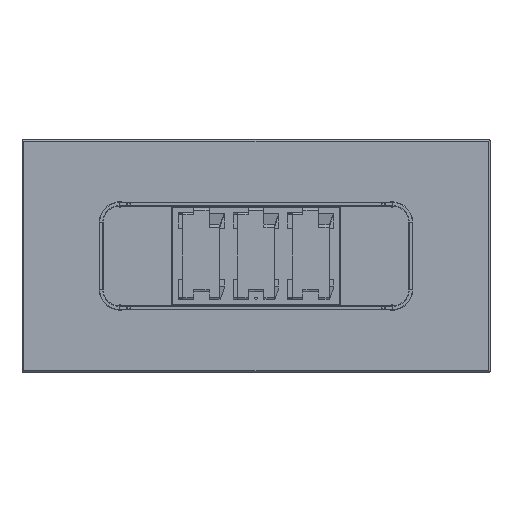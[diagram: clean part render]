
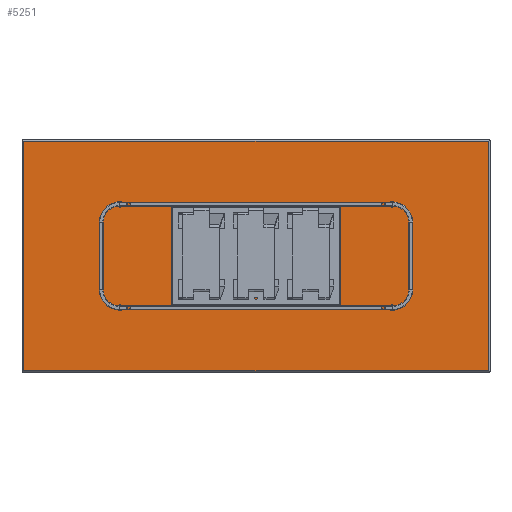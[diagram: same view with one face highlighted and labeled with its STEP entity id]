
A CAD part, front view. The second image highlights one B-rep face of the part: STEP entity #5251.
In plain terms, the highlighted planar face has unit normal (0, -1, 0).
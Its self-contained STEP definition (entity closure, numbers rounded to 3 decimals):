
#684 = ORIENTED_EDGE ( 'NONE', *, *, #3116, .T. ) ;
#761 = PLANE ( 'NONE',  #16390 ) ;
#1169 = ORIENTED_EDGE ( 'NONE', *, *, #15291, .T. ) ;
#1559 = CARTESIAN_POINT ( 'NONE',  ( 1187., 0., 0. ) ) ;
#2018 = DIRECTION ( 'NONE',  ( -1., 0., 0. ) ) ;
#2206 = CARTESIAN_POINT ( 'NONE',  ( -1187., 0., -587. ) ) ;
#2207 = LINE ( 'NONE', #7707, #9420 ) ;
#2434 = DIRECTION ( 'NONE',  ( 0., 0., -1. ) ) ;
#2562 = EDGE_CURVE ( 'NONE', #8899, #6400, #6342, .T. ) ;
#2597 = ORIENTED_EDGE ( 'NONE', *, *, #12336, .T. ) ;
#2868 = VERTEX_POINT ( 'NONE', #16897 ) ;
#3116 = EDGE_CURVE ( 'NONE', #2868, #8899, #5309, .T. ) ;
#3558 = FACE_OUTER_BOUND ( 'NONE', #8567, .T. ) ;
#3638 = VECTOR ( 'NONE', #2434, 1000. ) ;
#4472 = VECTOR ( 'NONE', #16006, 1000. ) ;
#4706 = VECTOR ( 'NONE', #9857, 1000. ) ;
#5152 = ORIENTED_EDGE ( 'NONE', *, *, #2562, .T. ) ;
#5251 = ADVANCED_FACE ( 'NONE', ( #3558 ), #761, .F. ) ;
#5309 = LINE ( 'NONE', #14801, #3638 ) ;
#6234 = LINE ( 'NONE', #1559, #4706 ) ;
#6282 = DIRECTION ( 'NONE',  ( 0., 1., 0. ) ) ;
#6342 = LINE ( 'NONE', #11849, #4472 ) ;
#6400 = VERTEX_POINT ( 'NONE', #11337 ) ;
#7029 = VERTEX_POINT ( 'NONE', #7186 ) ;
#7186 = CARTESIAN_POINT ( 'NONE',  ( 1187., 0., 587. ) ) ;
#7619 = CARTESIAN_POINT ( 'NONE',  ( 0., 0., 0. ) ) ;
#7707 = CARTESIAN_POINT ( 'NONE',  ( 0., 0., 587. ) ) ;
#8567 = EDGE_LOOP ( 'NONE', ( #2597, #1169, #684, #5152 ) ) ;
#8899 = VERTEX_POINT ( 'NONE', #2206 ) ;
#9420 = VECTOR ( 'NONE', #2018, 1000. ) ;
#9857 = DIRECTION ( 'NONE',  ( 0., 0., 1. ) ) ;
#11337 = CARTESIAN_POINT ( 'NONE',  ( 1187., 0., -587. ) ) ;
#11785 = DIRECTION ( 'NONE',  ( 0., 0., 1. ) ) ;
#11849 = CARTESIAN_POINT ( 'NONE',  ( 0., 0., -587. ) ) ;
#12336 = EDGE_CURVE ( 'NONE', #6400, #7029, #6234, .T. ) ;
#14801 = CARTESIAN_POINT ( 'NONE',  ( -1187., 0., 0. ) ) ;
#15291 = EDGE_CURVE ( 'NONE', #7029, #2868, #2207, .T. ) ;
#16006 = DIRECTION ( 'NONE',  ( 1., 0., 0. ) ) ;
#16390 = AXIS2_PLACEMENT_3D ( 'NONE', #7619, #6282, #11785 ) ;
#16897 = CARTESIAN_POINT ( 'NONE',  ( -1187., 0., 587. ) ) ;
